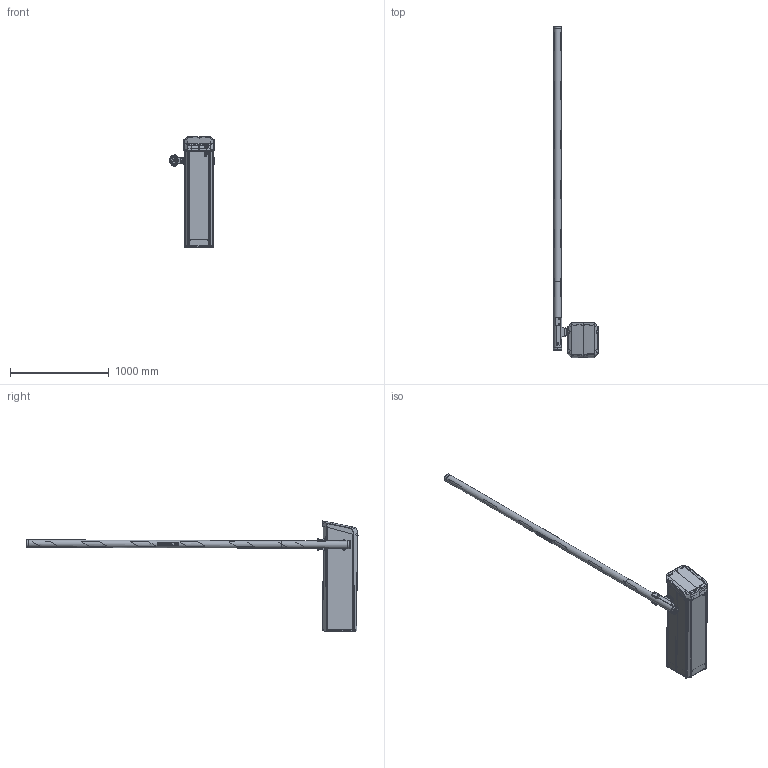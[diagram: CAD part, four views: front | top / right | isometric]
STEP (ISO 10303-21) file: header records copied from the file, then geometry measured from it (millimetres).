
FILE_DESCRIPTION(/* description */ ('Unknown'),/* implementation_level */ '2;1');
FILE_NAME(/* name */ '55860004_01',/* time_stamp */ '2023-03-06T14:52:41+01:00',/* author */ ('Unknown'),/* organization */ ('Unknown'),/* preprocessor_version */ 'ST-DEVELOPER v18.102',/* originating_system */ 'Solid Edge',/* authorisation */ 'Unknown');
FILE_SCHEMA (('AUTOMOTIVE_DESIGN {1 0 10303 214 3 1 1}'));
Products named in the file (63): 55860004; 10310282; 10140044; 10140044a; 10140044b; 20400150; 20410041; 20520064; 35000008; 34855030; 33075001; 34905002; 35000010; 34840047; TOLL-R-HUELLE; 20435761; 20186029; 10335028; 20695070; 20375010; 10085135; 20695057; 34745013; 20345347; 20345348; 10085135-Dichtung; 10435374; 20435667; 34685017; 34685017a; 34685017c; 34685017b; 34685017d; 20585064; 20415077; 20415077a; 20415077b; 20775050; 20775051; 21085025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
Assembly tree (100 placements, depth 5):
  55860004
    10310282
      10140044
        10140044a
        10140044b
      20400150  x2
      20410041  x2
      20520064
      35000008  x2
      34855030
      33075001
      34905002  x6
      35000010  x4
      34840047  x4
    TOLL-R-HUELLE
      20435761
      20186029
      10335028  x2
        20695070
        20375010
      10085135
        20695057
        34745013  x5
        20345347
        20345348
        10085135-Dichtung
      10435374
        20435667
        34685017
          34685017a
          34685017c
          34685017b
          34685017d
        20585064
      20415077
        20415077a
        20415077b
      20775050  x2
      20775051  x2
      21085025
      20165183
      10145080
        10145080a
        20040010
      21085024
      30545011
      20195100  x2
      10405014
        20405757
        31475004_10405014  x2
        32240037-10405014  x2
        31475004_10405014c
        31475004_10405014b
      20695069  x4
    10525109
      20635384_oa_0
      32420001
      33990150_oa_1
      20114242_oa_2
      20250111
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Bounding box: 460.29 x 3363.97 x 1117.51 mm (x, y, z)
Volume: 9756972.9 mm3; surface area: 6872053.3 mm2
Topology: 90 solids, 90 shells, 5360 faces, 13843 edges, 8789 vertices
Faces by surface type: plane 2862, cylinder 1491, bspline 465, cone 257, torus 254, sphere 31
Full cylindrical faces by diameter (mm): 1.5 x3, 1.8 x2, 2.5 x4, 3.14 x6, 3.2 x1, 3.3 x6, 3.5 x1, 3.6 x4, 3.65 x4, 3.9 x6, 4 x12, 4.134 x2, 4.2 x2, 4.5 x6, 4.773 x9, 4.9 x3, 4.917 x6, 5 x2, 5.5 x4, 6 x22, 6.4 x4, 6.5 x9, 6.75 x1, 7 x5, 7.1 x2, 7.2 x1, 8 x6, 8.4 x2, 8.5 x3, 9 x4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
Entity records: 126112 total; most frequent: CARTESIAN_POINT 30904, ORIENTED_EDGE 18506, DIRECTION 18156, EDGE_CURVE 9253, AXIS2_PLACEMENT_3D 6156, VERTEX_POINT 6004, LINE 5844, VECTOR 5844
